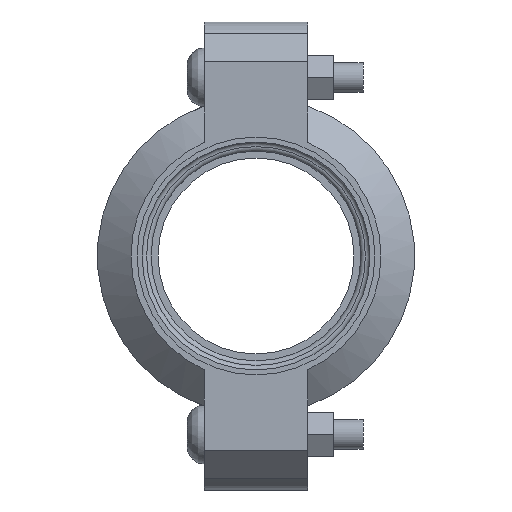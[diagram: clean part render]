
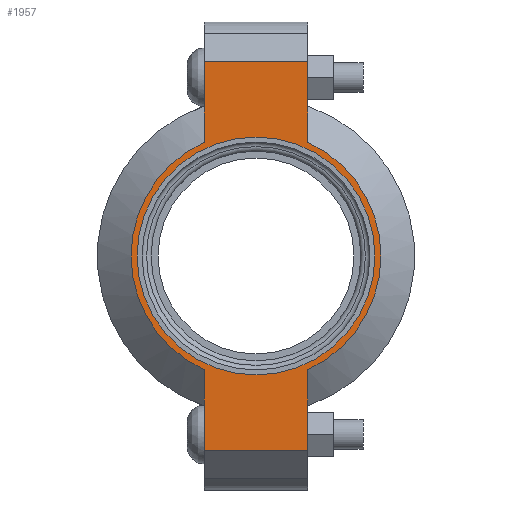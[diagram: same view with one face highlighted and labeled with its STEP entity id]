
A CAD part, left-side view. The second image highlights one B-rep face of the part: STEP entity #1957.
In plain terms, the highlighted planar face has unit normal (-1, 0, 0) as drawn and (0, 0, 1) by its records, which use the part's own axes.
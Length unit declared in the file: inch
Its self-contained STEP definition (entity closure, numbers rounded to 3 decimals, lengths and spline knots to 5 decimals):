
#128=LINE('',#3483,#227);
#141=LINE('',#3527,#240);
#146=LINE('',#3551,#245);
#153=LINE('',#3569,#252);
#160=LINE('',#3594,#259);
#161=LINE('',#3597,#260);
#227=VECTOR('',#2817,0.3937);
#240=VECTOR('',#2846,0.3937);
#245=VECTOR('',#2857,0.3937);
#252=VECTOR('',#2874,0.3937);
#259=VECTOR('',#2895,0.3937);
#260=VECTOR('',#2900,0.3937);
#312=FACE_BOUND('',#562,.T.);
#356=PLANE('',#2298);
#445=FACE_OUTER_BOUND('',#561,.T.);
#561=EDGE_LOOP('',(#1692,#1693,#1694,#1695,#1696,#1697,#1698,#1699));
#562=EDGE_LOOP('',(#1700));
#733=CIRCLE('',#2299,1.575);
#734=CIRCLE('',#2300,1.575);
#735=CIRCLE('',#2301,1.5);
#895=VERTEX_POINT('',#3478);
#896=VERTEX_POINT('',#3482);
#912=VERTEX_POINT('',#3524);
#913=VERTEX_POINT('',#3526);
#919=VERTEX_POINT('',#3546);
#920=VERTEX_POINT('',#3550);
#925=VERTEX_POINT('',#3566);
#926=VERTEX_POINT('',#3568);
#932=VERTEX_POINT('',#3599);
#1143=EDGE_CURVE('',#896,#895,#128,.T.);
#1163=EDGE_CURVE('',#913,#912,#141,.T.);
#1172=EDGE_CURVE('',#920,#919,#146,.T.);
#1181=EDGE_CURVE('',#926,#925,#153,.T.);
#1193=EDGE_CURVE('',#920,#912,#160,.T.);
#1194=EDGE_CURVE('',#919,#926,#733,.T.);
#1195=EDGE_CURVE('',#896,#925,#161,.T.);
#1196=EDGE_CURVE('',#895,#913,#734,.T.);
#1197=EDGE_CURVE('',#932,#932,#735,.T.);
#1692=ORIENTED_EDGE('',*,*,#1193,.F.);
#1693=ORIENTED_EDGE('',*,*,#1172,.T.);
#1694=ORIENTED_EDGE('',*,*,#1194,.T.);
#1695=ORIENTED_EDGE('',*,*,#1181,.T.);
#1696=ORIENTED_EDGE('',*,*,#1195,.F.);
#1697=ORIENTED_EDGE('',*,*,#1143,.T.);
#1698=ORIENTED_EDGE('',*,*,#1196,.T.);
#1699=ORIENTED_EDGE('',*,*,#1163,.T.);
#1700=ORIENTED_EDGE('',*,*,#1197,.T.);
#1957=ADVANCED_FACE('',(#445,#312),#356,.T.);
#2298=AXIS2_PLACEMENT_3D('',#3595,#2896,#2897);
#2299=AXIS2_PLACEMENT_3D('',#3596,#2898,#2899);
#2300=AXIS2_PLACEMENT_3D('',#3598,#2901,#2902);
#2301=AXIS2_PLACEMENT_3D('',#3600,#2903,#2904);
#2817=DIRECTION('',(1.,0.,0.));
#2846=DIRECTION('',(1.,0.,0.));
#2857=DIRECTION('',(-1.,0.,0.));
#2874=DIRECTION('',(-1.,0.,0.));
#2895=DIRECTION('',(0.,-1.,0.));
#2896=DIRECTION('center_axis',(0.,0.,1.));
#2897=DIRECTION('ref_axis',(-1.,0.,0.));
#2898=DIRECTION('center_axis',(0.,0.,1.));
#2899=DIRECTION('ref_axis',(1.,0.,0.));
#2900=DIRECTION('',(0.,1.,0.));
#2901=DIRECTION('center_axis',(0.,0.,1.));
#2902=DIRECTION('ref_axis',(1.,0.,0.));
#2903=DIRECTION('center_axis',(0.,0.,-1.));
#2904=DIRECTION('ref_axis',(1.,0.,0.));
#3478=CARTESIAN_POINT('',(-1.43462,-0.65,0.94));
#3482=CARTESIAN_POINT('',(-2.45,-0.65,0.94));
#3483=CARTESIAN_POINT('',(2.95,-0.65,0.94));
#3524=CARTESIAN_POINT('',(2.45,-0.65,0.94));
#3526=CARTESIAN_POINT('',(1.43462,-0.65,0.94));
#3527=CARTESIAN_POINT('',(2.95,-0.65,0.94));
#3546=CARTESIAN_POINT('',(1.43462,0.65,0.94));
#3550=CARTESIAN_POINT('',(2.45,0.65,0.94));
#3551=CARTESIAN_POINT('',(-2.95,0.65,0.94));
#3566=CARTESIAN_POINT('',(-2.45,0.65,0.94));
#3568=CARTESIAN_POINT('',(-1.43462,0.65,0.94));
#3569=CARTESIAN_POINT('',(-2.95,0.65,0.94));
#3594=CARTESIAN_POINT('',(2.45,-0.325,0.94));
#3595=CARTESIAN_POINT('Origin',(0.,0.,
0.94));
#3596=CARTESIAN_POINT('Origin',(0.,0.,0.94));
#3597=CARTESIAN_POINT('',(-2.45,0.325,0.94));
#3598=CARTESIAN_POINT('Origin',(0.,0.,0.94));
#3599=CARTESIAN_POINT('',(-1.5,0.,0.94));
#3600=CARTESIAN_POINT('Origin',(0.,0.,0.94));
